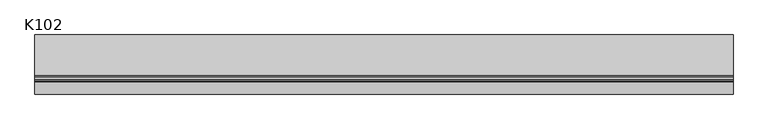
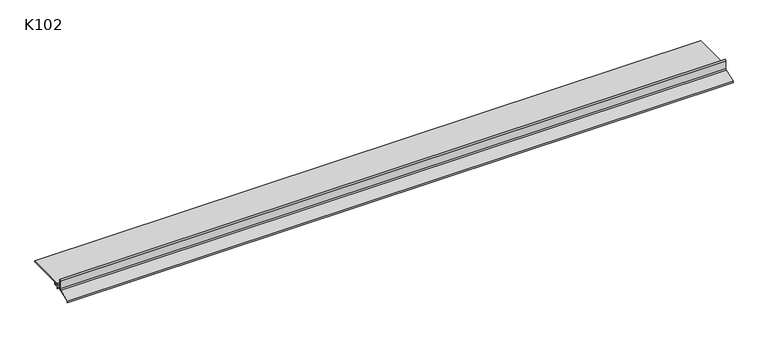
"""IFC4 building model written with IfcOpenShell, lengths in millimetres: proxy geometry, K102 Profil okapowy prosty : K102."""

import ifcopenshell
import ifcopenshell.guid

model = None  # the IFC model being written
_history = None  # IfcOwnerHistory: only IFC2X3 demands one
_inside = {}  # id of a spatial element -> (the spatial element, [elements in it])
_under = {}  # id of a project, library or spatial element -> (it, [spatial elements below it])
_declared = {}  # id of a project -> (the project, [libraries it declares])
_typed = {}  # id of a type object -> (the type object, [elements of that type])
_made_of = {}  # id of a material, layer set ... -> (it, [elements and type objects made of it])


def new_model(schema):
    """Start an empty IFC model of exactly this schema.

    Asked for "IFC4X3", IfcOpenShell would pick the latest addendum, in which some entities
    have other attributes; the version numbers below select the first issue.
    IFC2X3 requires an IfcOwnerHistory on every rooted entity: one is made here for all.
    """
    global model, _history
    if schema == "IFC4X3":
        model = ifcopenshell.file(schema_version=(4, 3, 0, 0))
    else:
        model = ifcopenshell.file(schema=schema)
    _inside.clear()
    _under.clear()
    _declared.clear()
    _typed.clear()
    _made_of.clear()
    _history = None
    if model.schema == "IFC2X3":
        org = make("IfcOrganization", Name="unknown")
        user = make(
            "IfcPersonAndOrganization",
            ThePerson=make("IfcPerson", FamilyName="unknown"),
            TheOrganization=org,
        )
        app = make(
            "IfcApplication",
            ApplicationDeveloper=org,
            Version="unknown",
            ApplicationFullName="unknown",
            ApplicationIdentifier="unknown",
        )
        _history = make(
            "IfcOwnerHistory",
            OwningUser=user,
            OwningApplication=app,
            ChangeAction="ADDED",
            CreationDate=0,
        )
    return model


def make(cls, **values):
    """One entity of the class cls with the attributes given. An attribute that is None is left unset."""
    return model.create_entity(
        cls, **{name: value for name, value in values.items() if value is not None}
    )


def rooted(cls, **values):
    """An entity with a GlobalId (a new one), such as an element, a storey or a relation."""
    return make(cls, GlobalId=ifcopenshell.guid.new(), OwnerHistory=_history, **values)


def si_unit(unit_type, name, prefix=None):
    """IfcSIUnit, for example si_unit("LENGTHUNIT", "METRE", prefix="MILLI")."""
    return make("IfcSIUnit", UnitType=unit_type, Prefix=prefix, Name=name)


def assignment(units):
    """IfcUnitAssignment: the units of a project."""
    return None if units is None else make("IfcUnitAssignment", Units=units)


def point(xyz):
    """IfcCartesianPoint."""
    return None if xyz is None else make("IfcCartesianPoint", Coordinates=xyz)


def direction(xyz):
    """IfcDirection."""
    return None if xyz is None else make("IfcDirection", DirectionRatios=xyz)


def frame(location, z_axis=None, x_axis=None):
    """IfcAxis2Placement3D, a coordinate frame: its origin and axes. An axis left out is left unset."""
    return make(
        "IfcAxis2Placement3D",
        Location=point(location),
        Axis=direction(z_axis),
        RefDirection=direction(x_axis),
    )


def frame_2d(location, x_axis=None):
    """IfcAxis2Placement2D, a coordinate frame in the plane: its origin and x axis."""
    return make(
        "IfcAxis2Placement2D", Location=point(location), RefDirection=direction(x_axis)
    )


def origin():
    """The frame at (0, 0, 0) with its axes left unset."""
    return frame((0.0, 0.0, 0.0))


def place(relative_to, where):
    """IfcLocalPlacement: puts the frame where relative to a parent placement (None: the world)."""
    return make(
        "IfcLocalPlacement", PlacementRelTo=relative_to, RelativePlacement=where
    )


def context(
    kind, dimensions, precision=None, world=None, true_north=None, identifier=None
):
    """IfcGeometricRepresentationContext, for example the 3D "Model" context."""
    return make(
        "IfcGeometricRepresentationContext",
        ContextIdentifier=identifier,
        ContextType=kind,
        CoordinateSpaceDimension=dimensions,
        Precision=precision,
        WorldCoordinateSystem=world,
        TrueNorth=true_north,
    )


def project(units=None, contexts=None):
    """IfcProject with its units and contexts."""
    return rooted(
        "IfcProject",
        Name="project",
        RepresentationContexts=contexts,
        UnitsInContext=assignment(units),
    )


def spatial(cls, under=None, at=None, **own):
    """A site, building, storey or space (cls), placed at a placement, below another one or the project."""
    s = rooted(cls, ObjectPlacement=at, **own)
    if under is not None:
        _under.setdefault(under.id(), (under, []))[1].append(s)
    return s


def polyline(points):
    """IfcPolyline through the points."""
    return make("IfcPolyline", Points=[point(p) for p in points])


def circle_curve(where, radius):
    """IfcCircle in the frame where."""
    return make("IfcCircle", Position=where, Radius=radius)


def trimmed(basis, trim1, trim2, sense, master):
    """IfcTrimmedCurve: the piece of a basis curve between two trims."""
    return make(
        "IfcTrimmedCurve",
        BasisCurve=basis,
        Trim1=trim1,
        Trim2=trim2,
        SenseAgreement=sense,
        MasterRepresentation=master,
    )


def segment(curve, same_sense, transition):
    """IfcCompositeCurveSegment."""
    return make(
        "IfcCompositeCurveSegment",
        Transition=transition,
        SameSense=same_sense,
        ParentCurve=curve,
    )


def composite_curve(segments, self_intersect=None):
    """IfcCompositeCurve: segments joined end to end."""
    return make("IfcCompositeCurve", Segments=segments, SelfIntersect=self_intersect)


def outline(outer, holes=None, kind="AREA"):
    """IfcArbitraryClosedProfileDef: a profile drawn as a closed curve; with holes, ...WithVoids."""
    if holes is None:
        return make("IfcArbitraryClosedProfileDef", ProfileType=kind, OuterCurve=outer)
    return make(
        "IfcArbitraryProfileDefWithVoids",
        ProfileType=kind,
        OuterCurve=outer,
        InnerCurves=holes,
    )


def extrude(swept, where, along, depth):
    """IfcExtrudedAreaSolid: the profile swept, set in the frame where, extruded along a direction by depth."""
    return make(
        "IfcExtrudedAreaSolid",
        SweptArea=swept,
        Position=where,
        ExtrudedDirection=direction(along),
        Depth=depth,
    )


def shape(context_of_items, identifier, shape_type, items):
    """IfcShapeRepresentation: the items that make up one representation, for example the "Body"."""
    return make(
        "IfcShapeRepresentation",
        ContextOfItems=context_of_items,
        RepresentationIdentifier=identifier,
        RepresentationType=shape_type,
        Items=items,
    )


def source(mapping_origin, context_of_items, identifier, shape_type, items):
    """IfcRepresentationMap: a shape defined once, which mapped items show again and again."""
    return make(
        "IfcRepresentationMap",
        MappingOrigin=mapping_origin,
        MappedRepresentation=shape(context_of_items, identifier, shape_type, items),
    )


def transform(
    local_origin,
    x_axis=None,
    y_axis=None,
    z_axis=None,
    scale=None,
    scale2=None,
    scale3=None,
    uniform=True,
):
    """IfcCartesianTransformationOperator3D, or its non-uniform kind. x_axis, y_axis, z_axis: its Axis1, 2, 3."""
    if uniform:
        return make(
            "IfcCartesianTransformationOperator3D",
            Axis1=direction(x_axis),
            Axis2=direction(y_axis),
            LocalOrigin=point(local_origin),
            Scale=scale,
            Axis3=direction(z_axis),
        )
    return make(
        "IfcCartesianTransformationOperator3DnonUniform",
        Axis1=direction(x_axis),
        Axis2=direction(y_axis),
        LocalOrigin=point(local_origin),
        Scale=scale,
        Axis3=direction(z_axis),
        Scale2=scale2,
        Scale3=scale3,
    )


def mapped(mapping_source, mapping_target):
    """IfcMappedItem: shows the shape of a source again, moved by a transform."""
    return make(
        "IfcMappedItem", MappingSource=mapping_source, MappingTarget=mapping_target
    )


def made_of(thing, what):
    """Note that an element or type object is made of a material, layer set ...; save() writes the relation."""
    if what is not None:
        _made_of.setdefault(what.id(), (what, []))[1].append(thing)
    return thing


def element(
    cls,
    number,
    at=None,
    inside=None,
    cuts=None,
    type_object=None,
    material=None,
    context=None,
    identifier="Body",
    shape_type=None,
    held_by="IfcProductDefinitionShape",
    body=None,
    shapes=None,
    **own,
):
    """One element of the class cls, such as IfcWall. Its Tag is "e" and its number.

    at: its placement. inside: the storey or other place that contains it. cuts: it is an
    opening in that element (IfcRelVoidsElement). A single representation is given by context,
    identifier, shape_type and body (its items); several are given by shapes. held_by: the class
    of the entity that holds the representations. save() writes the other relations.
    """
    e = rooted(cls, Tag="e%d" % number, ObjectPlacement=at, **own)
    if body is not None:
        shapes = [shape(context, identifier, shape_type, body)]
    if shapes is not None:
        e.Representation = make(held_by, Representations=shapes)
    if inside is not None:
        _inside.setdefault(inside.id(), (inside, []))[1].append(e)
    if cuts is not None:
        rooted(
            "IfcRelVoidsElement", RelatingBuildingElement=cuts, RelatedOpeningElement=e
        )
    if type_object is not None:
        _typed.setdefault(type_object.id(), (type_object, []))[1].append(e)
    return made_of(e, material)


def aggregate(whole, parts):
    """IfcRelAggregates: a whole, such as a stair, and the parts it consists of."""
    return rooted("IfcRelAggregates", RelatingObject=whole, RelatedObjects=parts)


def save(model, path):
    """Write the relations noted so far, then the file.

    IfcRelAggregates (storeys below a building ...), IfcRelContainedInSpatialStructure (elements
    in a storey), IfcRelDefinesByType, IfcRelAssociatesMaterial and IfcRelDeclares: one each for
    every whole, place, type object, material and project.
    """
    for whole, parts in _under.values():
        aggregate(whole, parts)
    for where, things in _inside.values():
        rooted(
            "IfcRelContainedInSpatialStructure",
            RelatedElements=things,
            RelatingStructure=where,
        )
    for kind, things in _typed.values():
        rooted("IfcRelDefinesByType", RelatedObjects=things, RelatingType=kind)
    for what, things in _made_of.values():
        rooted("IfcRelAssociatesMaterial", RelatedObjects=things, RelatingMaterial=what)
    for by, libraries in _declared.values():
        rooted("IfcRelDeclares", RelatingContext=by, RelatedDefinitions=libraries)
    model.write(path)


def k102_e13a818e(model_context):
    return source(origin(), model_context, "Body", "SweptSolid", [
        extrude(outline(composite_curve([segment(trimmed(circle_curve(frame_2d((-25.2785977, -5.7532078)), 2.5391624), [point((-24.4184871, -8.1422568))], [point((-22.7394353, -5.7532078))], True, "CARTESIAN"), True, "CONTINUOUS"), segment(polyline([(-22.7394353, -5.7532078), (-22.7394353, 10.321213)]), True, "CONTINUOUS"), segment(trimmed(circle_curve(frame_2d((-20.3156894, 10.321213)), 2.4237459), [point((-22.7394353, 10.321213))], [point((-20.5465224, 12.7339418))], False, "CARTESIAN"), True, "CONTINUOUS"), segment(polyline([(-20.5465224, 12.7339418), (-20.5465224, 11.3930959)]), True, "CONTINUOUS"), segment(trimmed(circle_curve(frame_2d((-20.3156894, 10.321213)), 1.0964565), [point((-20.5465224, 11.3930959))], [point((-21.4121459, 10.321213))], True, "CARTESIAN"), True, "CONTINUOUS"), segment(polyline([(-21.4121459, 10.321213), (-21.4121459, -7.2712376), (-14.5258906, -7.2712376), (-6.3502965, -5.9503608), (-6.3502965, -1.3849976), (-12.7424491, -1.3849976), (-14.2410772, -3.6068052), (-15.3829039, -2.8366335), (-13.4695704, 0.0), (64.4, 0.0), (64.4, -1.5004141), (-4.8498824, -1.5004141), (-4.8498824, -7.2270409), (-12.351953, -8.4421112), (-12.351953, -10.4725578), (-13.3907012, -11.3441711), (-13.3907012, -8.7716518), (-22.2483616, -8.7716518), (-46.9768941, -17.6744713), (-46.9768941, -19.2442096), (-48.0156424, -20.1158228), (-48.0156424, -16.6377555), (-24.4184871, -8.1422568)]), True, "CONTINUOUS")], self_intersect=False)), frame((0.0, 0.0, 0.0), z_axis=(1.0, 0.0, 0.0), x_axis=(0.0, 1.0, 0.0)), (0.0, 0.0, 1.0), 1326.9209511),
    ])


if __name__ == "__main__":
    model = new_model("IFC4")
    model_context = context("Model", 3, world=origin())
    ifc_project = project(units=[si_unit("LENGTHUNIT", "METRE", prefix="MILLI")], contexts=[model_context])
    site = spatial("IfcSite", under=ifc_project)
    building = spatial("IfcBuilding", under=site)
    placement = place(None, origin())
    k102_shape = k102_e13a818e(model_context)
    element("IfcBuildingElementProxy", 1, Name="K102 Profil okapowy prosty : K102", ObjectType="K102 Profil okapowy prosty : K102", at=placement, inside=building, context=model_context, shape_type="MappedRepresentation", body=[
        mapped(k102_shape, transform((0.0, 0.0, 0.0), x_axis=(1.0, 0.0, 0.0), y_axis=(0.0, 1.0, 0.0), z_axis=(0.0, 0.0, 1.0))),
    ])
    save(model, "model.ifc")
